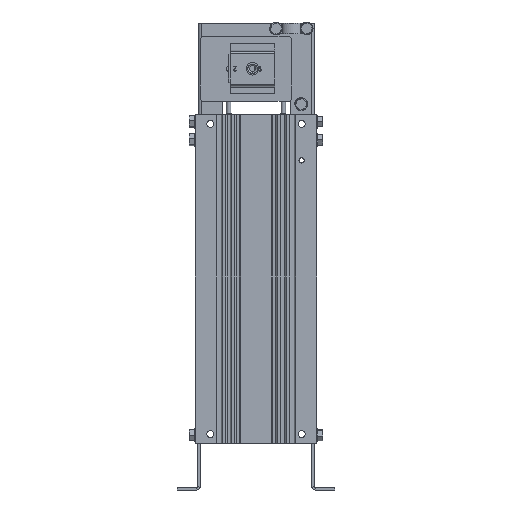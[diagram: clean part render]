
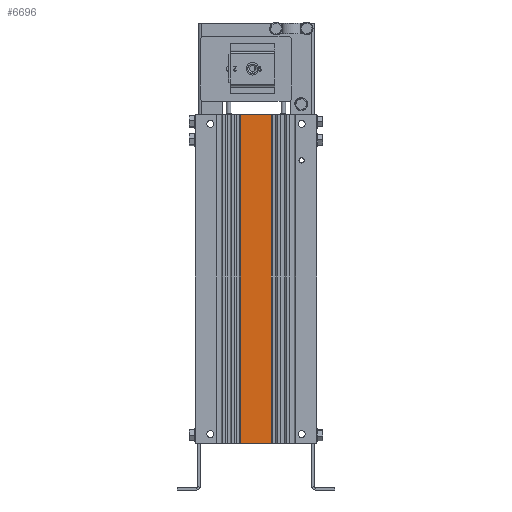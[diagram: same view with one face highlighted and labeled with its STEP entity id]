
A CAD part, front view. The second image highlights one B-rep face of the part: STEP entity #6696.
In plain terms, the highlighted planar face has unit normal (0, -1, 0).
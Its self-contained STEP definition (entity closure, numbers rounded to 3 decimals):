
#6018 = EDGE_LOOP ( 'NONE', ( #6482, #6698, #6468, #6471 ) ) ;
#6019 = VERTEX_POINT ( 'NONE', #10055 ) ;
#6464 = VERTEX_POINT ( 'NONE', #10818 ) ;
#6468 = ORIENTED_EDGE ( 'NONE', *, *, #6480, .T. ) ;
#6469 = EDGE_CURVE ( 'NONE', #6697, #6464, #10696, .T. ) ;
#6471 = ORIENTED_EDGE ( 'NONE', *, *, #6469, .T. ) ;
#6477 = EDGE_CURVE ( 'NONE', #6019, #6464, #10674, .T. ) ;
#6479 = EDGE_CURVE ( 'NONE', #6019, #6740, #10887, .T. ) ;
#6480 = EDGE_CURVE ( 'NONE', #6740, #6697, #10883, .T. ) ;
#6482 = ORIENTED_EDGE ( 'NONE', *, *, #6477, .F. ) ;
#6696 = ADVANCED_FACE ( 'NONE', ( #11438 ), #11280, .F. ) ;
#6697 = VERTEX_POINT ( 'NONE', #11441 ) ;
#6698 = ORIENTED_EDGE ( 'NONE', *, *, #6479, .T. ) ;
#6740 = VERTEX_POINT ( 'NONE', #11319 ) ;
#10055 = CARTESIAN_POINT ( 'NONE',  ( -10., -7.5, 108. ) ) ;
#10668 = DIRECTION ( 'NONE',  ( 1., 0., 0. ) ) ;
#10669 = VECTOR ( 'NONE', #10668, 1000. ) ;
#10673 = CARTESIAN_POINT ( 'NONE',  ( -40., -7.5, 108. ) ) ;
#10674 = LINE ( 'NONE', #10673, #10669 ) ;
#10681 = DIRECTION ( 'NONE',  ( 0., 0., 1. ) ) ;
#10682 = VECTOR ( 'NONE', #10681, 1000. ) ;
#10683 = CARTESIAN_POINT ( 'NONE',  ( 10., -7.5, 108. ) ) ;
#10696 = LINE ( 'NONE', #10683, #10682 ) ;
#10818 = CARTESIAN_POINT ( 'NONE',  ( 10., -7.5, 108. ) ) ;
#10880 = DIRECTION ( 'NONE',  ( 1., 0., 0. ) ) ;
#10881 = VECTOR ( 'NONE', #10880, 1000. ) ;
#10882 = CARTESIAN_POINT ( 'NONE',  ( -40., -7.5, -108. ) ) ;
#10883 = LINE ( 'NONE', #10882, #10881 ) ;
#10884 = DIRECTION ( 'NONE',  ( 0., 0., -1. ) ) ;
#10885 = VECTOR ( 'NONE', #10884, 1000. ) ;
#10886 = CARTESIAN_POINT ( 'NONE',  ( -10., -7.5, 108. ) ) ;
#10887 = LINE ( 'NONE', #10886, #10885 ) ;
#11280 = PLANE ( 'NONE',  #11434 ) ;
#11319 = CARTESIAN_POINT ( 'NONE',  ( -10., -7.5, -108. ) ) ;
#11430 = DIRECTION ( 'NONE',  ( 0., 0., 1. ) ) ;
#11434 = AXIS2_PLACEMENT_3D ( 'NONE', #11437, #11440, #11430 ) ;
#11437 = CARTESIAN_POINT ( 'NONE',  ( -40., -7.5, 108. ) ) ;
#11438 = FACE_OUTER_BOUND ( 'NONE', #6018, .T. ) ;
#11440 = DIRECTION ( 'NONE',  ( 0., 1., 0. ) ) ;
#11441 = CARTESIAN_POINT ( 'NONE',  ( 10., -7.5, -108. ) ) ;
